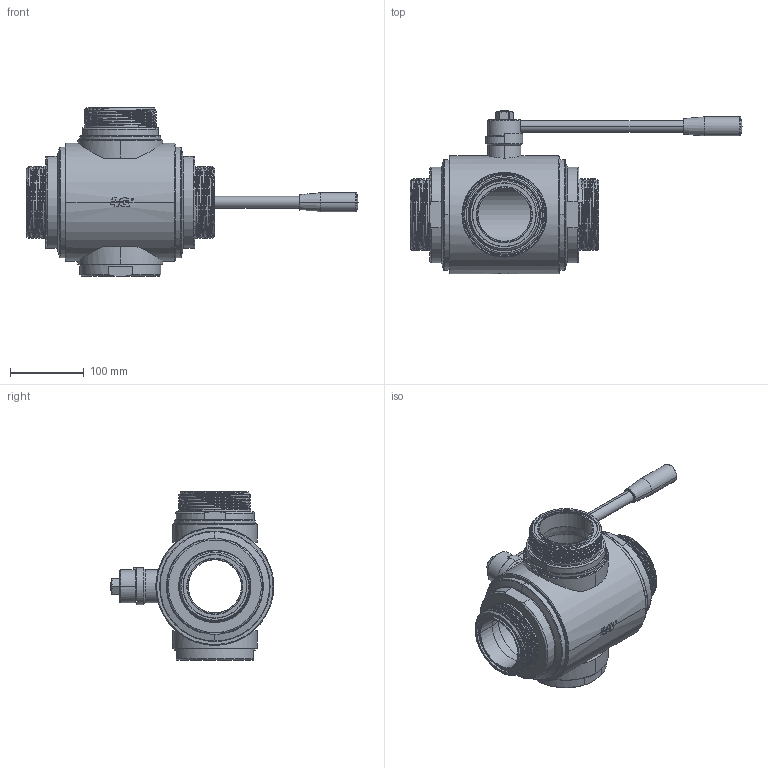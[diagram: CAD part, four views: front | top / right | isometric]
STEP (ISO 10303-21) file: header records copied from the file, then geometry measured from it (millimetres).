
FILE_DESCRIPTION((''),'2;1');
FILE_NAME('30014464810','2020-07-02T07:57:17',('alfio.taboni'),('CDM Tecnoconsulting'),'CREO PARAMETRIC BY PTC INC, 2020053','CREO PARAMETRIC BY PTC INC, 2020053','');
FILE_SCHEMA(('CONFIG_CONTROL_DESIGN','SHAPE_APPEARANCE_LAYERS_GROUPS'));
Length unit declared in the file: millimetre
Products named in the file (1): 30014464810
Bounding box: 450.5 x 222 x 228 mm (x, y, z)
Surface area: 311135.1 mm2 (no closed solid volume)
Topology: 0 solids, 32 shells, 364 faces, 1218 edges, 880 vertices
Faces by surface type: cylinder 117, plane 97, cone 77, bspline 30, torus 26, extrusion 15, sphere 2
Entity records: 35450 total; most frequent: CARTESIAN_POINT 19080, ORIENTED_EDGE 2004, DIRECTION 1862, PRESENTATION_STYLE_ASSIGNMENT 1614, STYLED_ITEM 1250, CURVE_STYLE 1231, EDGE_CURVE 1216, VERTEX_POINT 880
